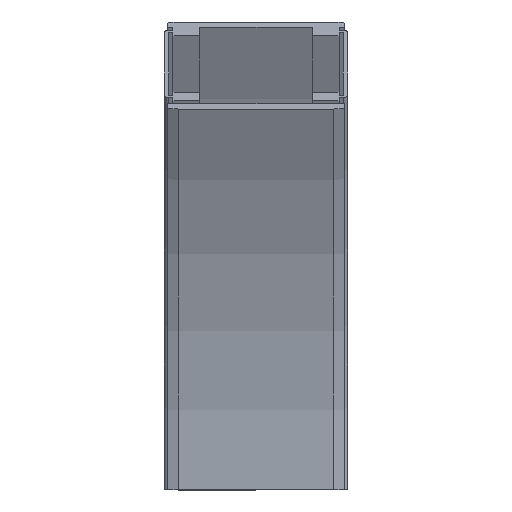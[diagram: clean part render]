
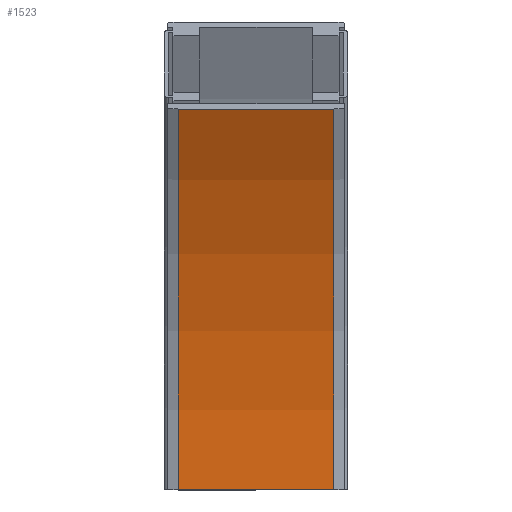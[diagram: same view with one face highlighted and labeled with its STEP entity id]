
A CAD part, top view. The second image highlights one B-rep face of the part: STEP entity #1523.
In plain terms, the highlighted cylindrical face has radius 357.5 mm (diameter 715 mm), a partial arc.
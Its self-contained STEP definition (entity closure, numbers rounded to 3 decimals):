
#79=CYLINDRICAL_SURFACE('',#1637,357.5);
#110=FACE_OUTER_BOUND('',#197,.T.);
#197=EDGE_LOOP('',(#1004,#1005,#1006,#1007));
#289=CIRCLE('',#1636,357.5);
#290=CIRCLE('',#1638,357.5);
#358=LINE('',#2198,#484);
#359=LINE('',#2200,#485);
#484=VECTOR('',#1790,10.);
#485=VECTOR('',#1791,10.);
#610=VERTEX_POINT('',#2191);
#611=VERTEX_POINT('',#2193);
#612=VERTEX_POINT('',#2197);
#613=VERTEX_POINT('',#2199);
#768=EDGE_CURVE('',#610,#611,#289,.T.);
#769=EDGE_CURVE('',#612,#610,#358,.T.);
#770=EDGE_CURVE('',#613,#611,#359,.T.);
#771=EDGE_CURVE('',#612,#613,#290,.T.);
#1004=ORIENTED_EDGE('',*,*,#769,.T.);
#1005=ORIENTED_EDGE('',*,*,#768,.T.);
#1006=ORIENTED_EDGE('',*,*,#770,.F.);
#1007=ORIENTED_EDGE('',*,*,#771,.F.);
#1523=ADVANCED_FACE('',(#110),#79,.F.);
#1636=AXIS2_PLACEMENT_3D('',#2195,#1786,#1787);
#1637=AXIS2_PLACEMENT_3D('',#2196,#1788,#1789);
#1638=AXIS2_PLACEMENT_3D('',#2201,#1792,#1793);
#1786=DIRECTION('center_axis',(1.,0.,0.));
#1787=DIRECTION('ref_axis',(0.,0.,
-1.));
#1788=DIRECTION('center_axis',(1.,0.,0.));
#1789=DIRECTION('ref_axis',(0.,0.,-1.));
#1790=DIRECTION('',(1.,0.,0.));
#1791=DIRECTION('',(1.,0.,0.));
#1792=DIRECTION('center_axis',(1.,0.,0.));
#1793=DIRECTION('ref_axis',(0.,0.,-1.));
#2191=CARTESIAN_POINT('',(36.5,0.,42.5));
#2193=CARTESIAN_POINT('',(36.5,178.75,90.396));
#2195=CARTESIAN_POINT('Origin',(36.5,0.,400.));
#2196=CARTESIAN_POINT('Origin',(0.,0.,400.));
#2197=CARTESIAN_POINT('',(-36.5,0.,42.5));
#2198=CARTESIAN_POINT('',(-36.5,0.,42.5));
#2199=CARTESIAN_POINT('',(-36.5,178.75,90.396));
#2200=CARTESIAN_POINT('',(-36.5,178.75,90.396));
#2201=CARTESIAN_POINT('Origin',(-36.5,0.,
400.));
